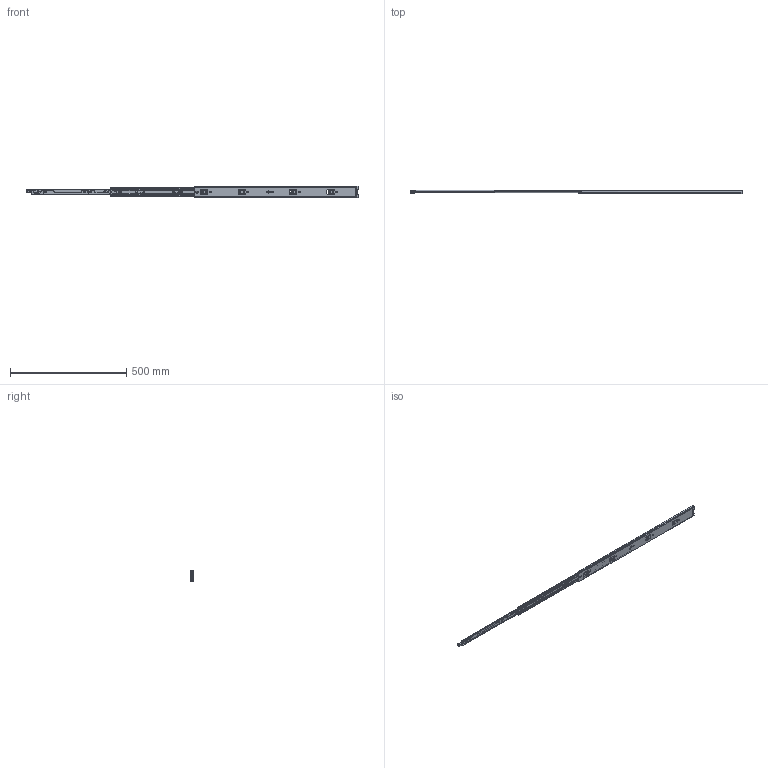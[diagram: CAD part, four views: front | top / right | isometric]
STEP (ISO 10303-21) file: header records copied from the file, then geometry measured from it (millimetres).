
FILE_DESCRIPTION((''),'2;1');
FILE_NAME('KP-50-3S-28YOU_ASM','2023-04-28T',('jishu015'),(''),'PRO/ENGINEER BY PARAMETRIC TECHNOLOGY CORPORATION, 2010280','PRO/ENGINEER BY PARAMETRIC TECHNOLOGY CORPORATION, 2010280','');
FILE_SCHEMA(('CONFIG_CONTROL_DESIGN'));
Products named in the file (19): KP-50-01WAIKE18112_; KP-50-01ZHONGGIU20___; ZHONGGUIPEIJIAN21_; 50BAIKO12_; KP-53-01ZHONGGUI-1854_____ASM; KP-50-01ZHUJIA-16GE43____; 4-76GANZHU21_; KP-50-01ZHUJIA-16GE23_____ASM; KP-50-01NEIGUI121_; YH1050BANJI12_; PIAN12_; JIAO12_; DAOPIAN21_; ZOU-121_; KP53-0NEIGUI21__ASM; 50ZHUTIAO21_; 50ZHUTIAO21__ASM; CHANGGUI1045WEIJIAO232__; KP-50-3S-28YOU_ASM
Assembly tree (82 placements, depth 3):
  KP-50-3S-28YOU_ASM
    KP-50-01WAIKE18112_
    KP-53-01ZHONGGUI-1854_____ASM
      KP-50-01ZHONGGIU20___
      ZHONGGUIPEIJIAN21_
      50BAIKO12_
    KP-50-01ZHUJIA-16GE23_____ASM
      KP-50-01ZHUJIA-16GE43____
      4-76GANZHU21_  x52
    KP53-0NEIGUI21__ASM
      KP-50-01NEIGUI121_
      YH1050BANJI12_
      PIAN12_
      JIAO12_
      DAOPIAN21_
      ZOU-121_
    50ZHUTIAO21__ASM  x2
      50ZHUTIAO21_
      4-76GANZHU21_
    CHANGGUI1045WEIJIAO232__
Bounding box: 1425.3 x 13 x 50 mm (x, y, z)
Volume: 210174.2 mm3; surface area: 277659.5 mm2
Topology: 90 solids, 91 shells, 2273 faces, 6648 edges, 4088 vertices
Faces by surface type: cylinder 1000, plane 896, bspline 161, sphere 154, torus 25, extrusion 23, cone 14
Entity records: 75574 total; most frequent: CARTESIAN_POINT 19916, ORIENTED_EDGE 11904, DIRECTION 11412, EDGE_CURVE 5954, AXIS2_PLACEMENT_3D 3884, VERTEX_POINT 3778, VECTOR 3644, LINE 3621
